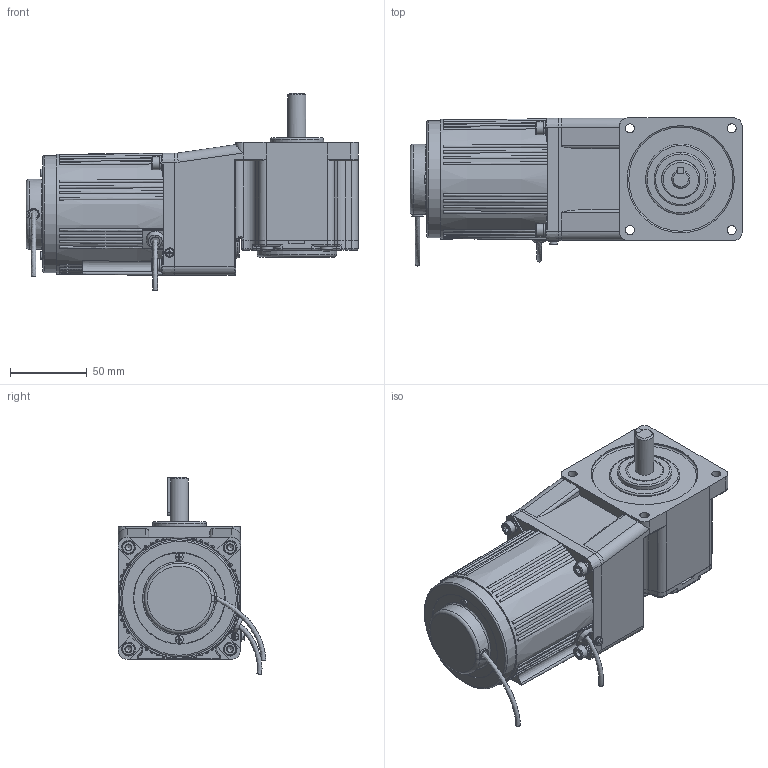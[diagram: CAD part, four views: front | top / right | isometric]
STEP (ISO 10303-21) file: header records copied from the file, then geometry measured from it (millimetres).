
FILE_DESCRIPTION(/* description */ (''),/* implementation_level */ '2;1');
FILE_NAME(/* name */ '80+中实直角-调速-25-40W.stp',/* time_stamp */ '2025-03-24T15:07:31+08:00',/* author */ (''),/* organization */ (''),/* preprocessor_version */ 'ST-DEVELOPER v18.102',/* originating_system */ 'SIEMENS PLM Software NX 2027',/* authorisation */ '');
FILE_SCHEMA (('AP203_CONFIGURATION_CONTROLLED_3D_DESIGN_OF_MECHANICAL_PARTS_AND_ASSEMBLIES_MIM_LF { 1 0 10303 403 2 1 2}'));
Length unit declared in the file: millimetre
Products named in the file (1): 4RK25-40CC·R-4GN3-20K-C·10L_stp_M066312CCEA1lpx2
Bounding box: 217 x 96.6 x 128.85 mm (x, y, z)
Volume: 1120934 mm3; surface area: 118716.8 mm2
Topology: 17 solids, 18 shells, 957 faces, 2292 edges, 1426 vertices
Faces by surface type: plane 396, cylinder 237, bspline 128, cone 90, torus 86, sphere 16, revolution 4
Full cylindrical faces by diameter (mm): 2.6 x1, 2.7 x1, 3.2 x1, 4.2 x4, 4.4 x1, 4.826 x4, 5 x9, 5.1 x3, 5.3 x4, 5.8 x1, 6 x10, 7.4 x1, 8 x4, 8.2 x1, 8.5 x4, 9 x4, 10.5 x1, 12 x1, 19 x1, 25 x1, 26 x1, 35 x1, 46 x2, 52 x1, 56 x1, 59.5 x1, 60 x1, 67 x1, 70 x1, 75 x1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
Entity records: 33694 total; most frequent: CARTESIAN_POINT 13641, ORIENTED_EDGE 4166, DIRECTION 3652, EDGE_CURVE 2083, AXIS2_PLACEMENT_3D 1486, VERTEX_POINT 1357, EDGE_LOOP 1167, ADVANCED_FACE 954
